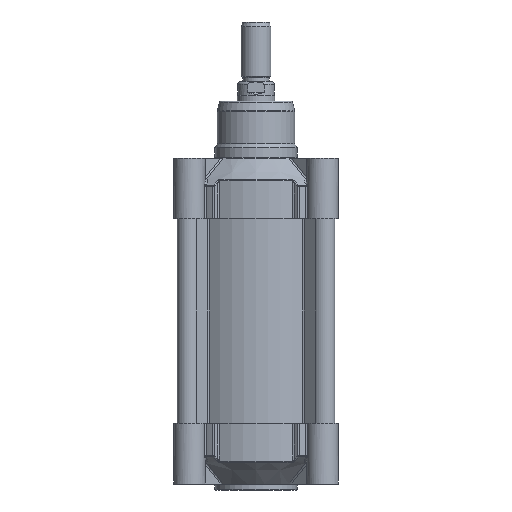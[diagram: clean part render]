
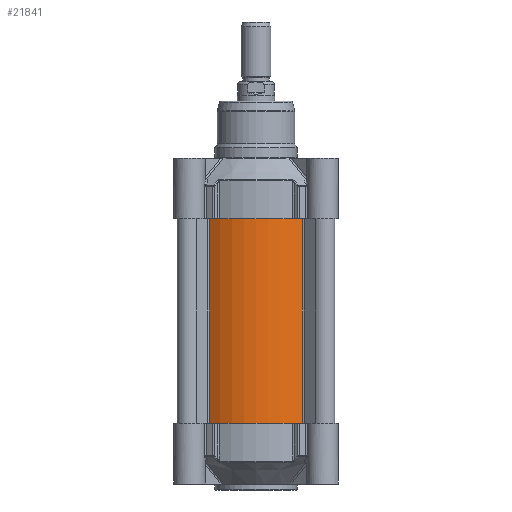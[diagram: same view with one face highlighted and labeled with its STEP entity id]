
A CAD part, left-side view. The second image highlights one B-rep face of the part: STEP entity #21841.
In plain terms, the highlighted cylindrical face has radius 52.7 mm (diameter 105.4 mm), a partial arc.
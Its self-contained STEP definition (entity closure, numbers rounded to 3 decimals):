
#1972=LINE('',#43617,#3030);
#1973=LINE('',#43621,#3031);
#3030=VECTOR('',#29906,10.);
#3031=VECTOR('',#29911,10.);
#4020=CYLINDRICAL_SURFACE('',#24279,52.7);
#5708=FACE_OUTER_BOUND('',#7393,.T.);
#7393=EDGE_LOOP('',(#18817,#18818,#18819,#18820));
#8528=CIRCLE('',#24118,52.7);
#8585=CIRCLE('',#24280,52.7);
#10334=VERTEX_POINT('',#43193);
#10335=VERTEX_POINT('',#43195);
#10441=VERTEX_POINT('',#43615);
#10442=VERTEX_POINT('',#43619);
#13081=EDGE_CURVE('',#10334,#10335,#8528,.T.);
#13292=EDGE_CURVE('',#10334,#10441,#1972,.T.);
#13293=EDGE_CURVE('',#10442,#10441,#8585,.T.);
#13294=EDGE_CURVE('',#10335,#10442,#1973,.T.);
#18817=ORIENTED_EDGE('',*,*,#13292,.T.);
#18818=ORIENTED_EDGE('',*,*,#13293,.F.);
#18819=ORIENTED_EDGE('',*,*,#13294,.F.);
#18820=ORIENTED_EDGE('',*,*,#13081,.F.);
#21841=ADVANCED_FACE('',(#5708),#4020,.T.);
#24118=AXIS2_PLACEMENT_3D('',#43196,#29430,#29431);
#24279=AXIS2_PLACEMENT_3D('',#43618,#29907,#29908);
#24280=AXIS2_PLACEMENT_3D('',#43620,#29909,#29910);
#29430=DIRECTION('center_axis',(0.,0.,-1.));
#29431=DIRECTION('ref_axis',(-0.586,-0.81,0.));
#29906=DIRECTION('',(0.,0.,1.));
#29907=DIRECTION('center_axis',(0.,0.,1.));
#29908=DIRECTION('ref_axis',(-0.586,-0.81,0.));
#29909=DIRECTION('center_axis',(0.,0.,1.));
#29910=DIRECTION('ref_axis',(-0.586,-0.81,0.));
#29911=DIRECTION('',(0.,0.,1.));
#43193=CARTESIAN_POINT('',(30.896,-42.693,-68.5));
#43195=CARTESIAN_POINT('',(-30.896,-42.693,-68.5));
#43196=CARTESIAN_POINT('Origin',(0.,0.,
-68.5));
#43615=CARTESIAN_POINT('',(30.896,-42.693,68.5));
#43617=CARTESIAN_POINT('',(30.896,-42.693,0.));
#43618=CARTESIAN_POINT('Origin',(0.,0.,
0.));
#43619=CARTESIAN_POINT('',(-30.896,-42.693,68.5));
#43620=CARTESIAN_POINT('Origin',(0.,0.,
68.5));
#43621=CARTESIAN_POINT('',(-30.896,-42.693,0.));
